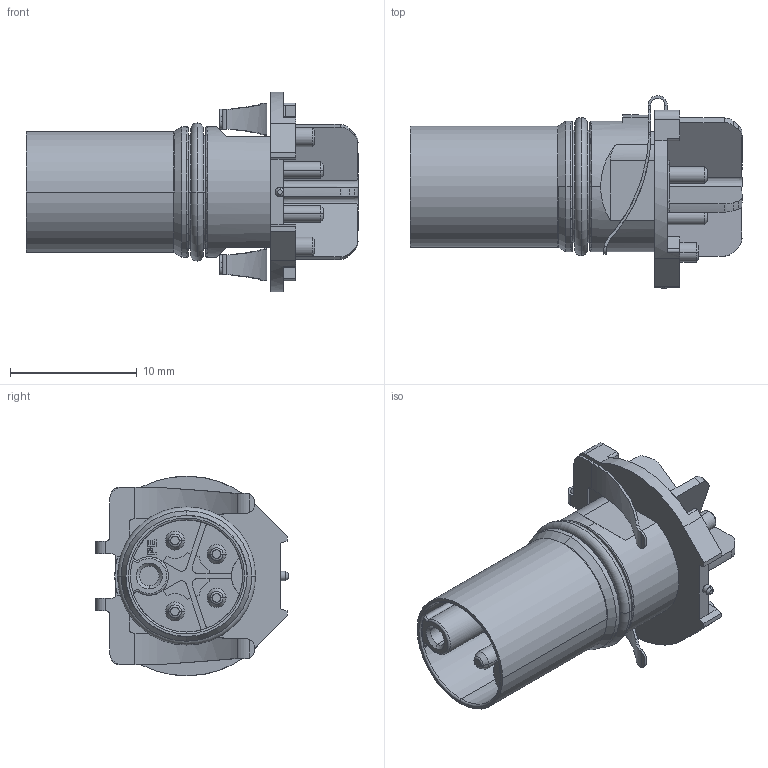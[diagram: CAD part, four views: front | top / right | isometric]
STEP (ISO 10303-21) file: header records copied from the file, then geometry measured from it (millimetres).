
FILE_DESCRIPTION((''),'2;1');
FILE_NAME('MSKS-05PMEP-EE0001_SW0001','2024-07-16T',('L230003'),(''),'PRO/ENGINEER BY PARAMETRIC TECHNOLOGY CORPORATION, 2017170','PRO/ENGINEER BY PARAMETRIC TECHNOLOGY CORPORATION, 2017170','');
FILE_SCHEMA(('CONFIG_CONTROL_DESIGN'));
Length unit declared in the file: millimetre
Products named in the file (1): MSKS-05PMEP-EE0001_SW0001
Bounding box: 26.2 x 15.2 x 15.75 mm (x, y, z)
Volume: 1406.4 mm3; surface area: 2294.7 mm2
Topology: 2 solids, 2 shells, 456 faces, 1204 edges, 784 vertices
Faces by surface type: plane 228, cylinder 146, cone 37, torus 31, extrusion 10, bspline 4
Entity records: 16074 total; most frequent: CARTESIAN_POINT 3091, DIRECTION 2427, ORIENTED_EDGE 2408, EDGE_CURVE 1204, AXIS2_PLACEMENT_3D 872, VERTEX_POINT 784, VECTOR 683, LINE 673
